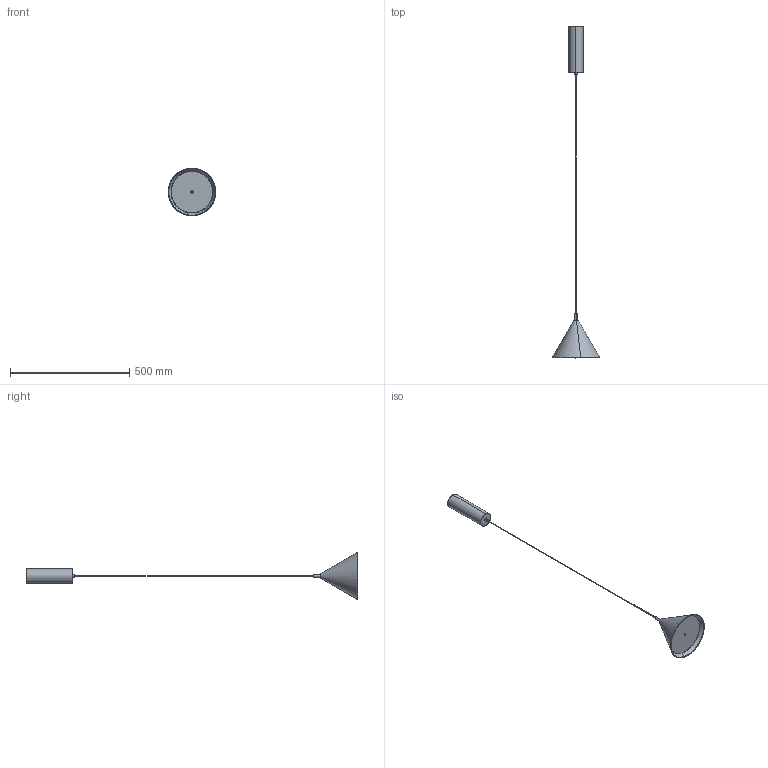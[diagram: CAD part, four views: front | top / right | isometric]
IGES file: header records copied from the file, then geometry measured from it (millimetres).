
Start section: SolidWorks IGES file using analytic representation for surfaces
Global section: file name: C:\Users\Agustin\Desktop\ENERO 2025\2D-3D\2D-3D TRAG_C1340\TRAG_C1340_20.IGS; native system: SolidWorks 2018; preprocessor: SolidWorks 2018; author: Agustin; date: 250117.172601; units: millimetre
Bounding box: 199.27 x 1392.62 x 199.22 mm (x, y, z)
Surface area: 226320.4 mm2 (no closed solid volume)
Topology: 0 solids, 0 shells, 35 faces, 784 edges, 784 vertices
Faces by surface type: bspline 19, revolution 16
